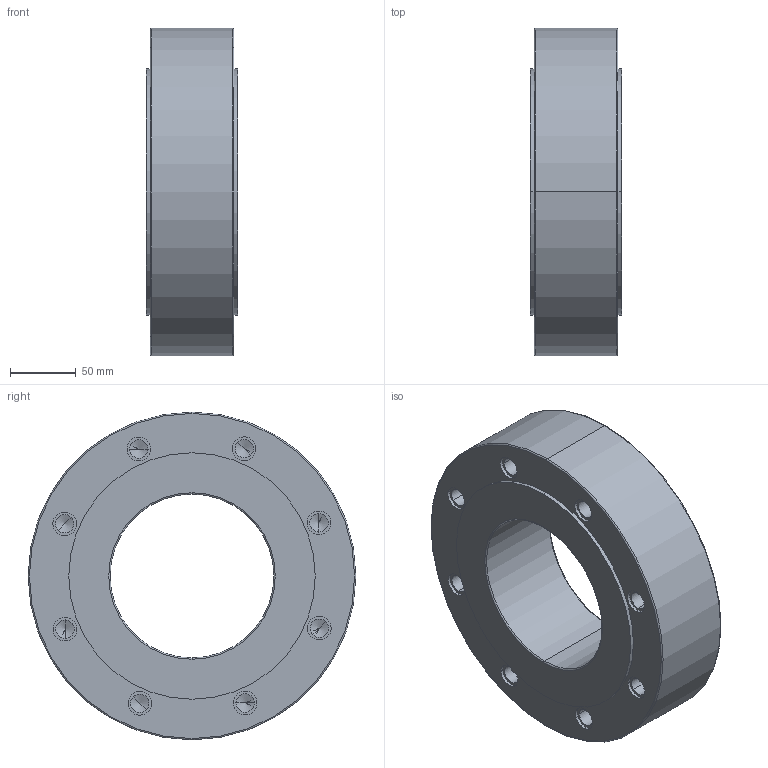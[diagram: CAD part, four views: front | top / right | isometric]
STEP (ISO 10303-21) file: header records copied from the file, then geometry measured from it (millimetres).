
FILE_DESCRIPTION (( 'STEP AP203' ), '1' );
FILE_NAME ('W8_PN10_DN125.STEP', '2012-10-31T06:57:09', ( 'luca.saino' ), ( 'Hewlett-Packard Company' ), 'SwSTEP 2.0', 'SolidWorks 2012', '' );
FILE_SCHEMA (( 'CONFIG_CONTROL_DESIGN' ));
Length unit declared in the file: millimetre
Products named in the file (1): W8_PN10_DN125
Bounding box: 70 x 250 x 250 mm (x, y, z)
Volume: 2390959.3 mm3; surface area: 169433.7 mm2
Topology: 1 solids, 1 shells, 132 faces, 296 edges, 168 vertices
Faces by surface type: cylinder 72, cone 32, plane 20, torus 8
Entity records: 3557 total; most frequent: DIRECTION 690, CARTESIAN_POINT 565, ORIENTED_EDGE 528, AXIS2_PLACEMENT_3D 293, EDGE_CURVE 264, VERTEX_POINT 168, EDGE_LOOP 168, CIRCLE 160
